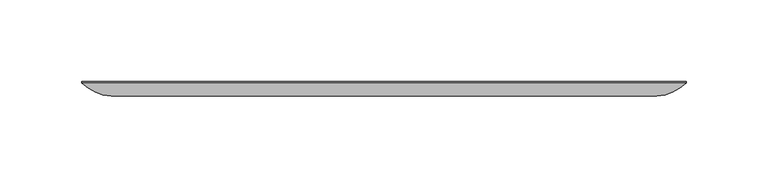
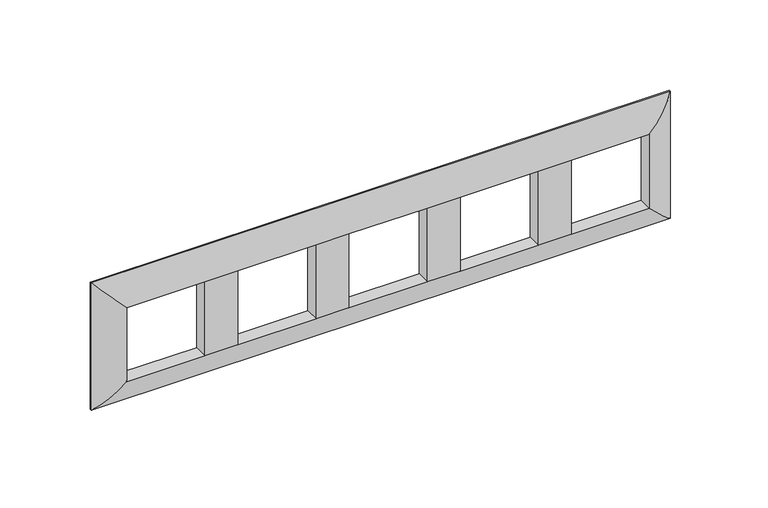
"""IFC4 building model written with IfcOpenShell, lengths in millimetres: proxy geometry, КНС_РамкаНа2x5Модуля(пятиместная)_DKC : 2х5 модулей."""

from ifc_helpers import new_model, si_unit, frame, origin, place, context, project, spatial, ellipse_curve, source, transform, mapped, element, save
from ifc_brep_helpers import plane_surface, cylinder_surface, advanced_brep


def electrical_fixtures_146b7f6f(model_context):
    return source(origin(), model_context, "Body", "AdvancedBrep", [
        advanced_brep(
        [(167.0, -9.0, 24.9768143), (167.0, 0.0, 24.9768143), (167.0, 0.0, -24.9768143), (167.0, -9.0, -24.9768143), (185.0, -0.8, -42.9768143), (185.0, -0.8, 42.9768143), (185.0, 0.0, -42.9768143), (185.0, 0.0, 42.9768143), (117.0, 0.0, -24.9768143), (117.0, -9.0, -24.9768143), (-167.0, 0.0, -24.9768143), (-167.0, -9.0, -24.9768143), (-117.0, -9.0, -24.9768143), (-117.0, 0.0, -24.9768143), (96.0, 0.0, -24.9768143), (46.0, 0.0, -24.9768143), (46.0, -9.0, -24.9768143), (96.0, -9.0, -24.9768143), (25.0, 0.0, -24.9768143), (-25.0, 0.0, -24.9768143), (-25.0, -9.0, -24.9768143), (25.0, -9.0, -24.9768143), (-46.0, 0.0, -24.9768143), (-96.0, 0.0, -24.9768143), (-96.0, -9.0, -24.9768143), (-46.0, -9.0, -24.9768143), (-185.0, -0.8, -42.9768143), (-185.0, 0.0, -42.9768143), (-167.0, 0.0, 24.9768143), (-167.0, -9.0, 24.9768143), (-185.0, -0.8, 42.9768143), (-185.0, 0.0, 42.9768143), (117.0, -9.0, 24.9768143), (117.0, 0.0, 24.9768143), (-117.0, 0.0, 24.9768143), (-117.0, -9.0, 24.9768143), (46.0, 0.0, 24.9768143), (96.0, 0.0, 24.9768143), (96.0, -9.0, 24.9768143), (46.0, -9.0, 24.9768143), (-25.0, 0.0, 24.9768143), (25.0, 0.0, 24.9768143), (25.0, -9.0, 24.9768143), (-25.0, -9.0, 24.9768143), (-96.0, 0.0, 24.9768143), (-46.0, 0.0, 24.9768143), (-46.0, -9.0, 24.9768143), (-96.0, -9.0, 24.9768143)],
        [
            (0, 1),
            (1, 2),
            (2, 3),
            (3, 0),
            (3, 4, ellipse_curve(frame((165.2227605, 18.757355, -23.1995748), z_axis=(0.7071067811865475, 0.0, 0.7071067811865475), x_axis=(-0.7071067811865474, 0.0, 0.7071067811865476)), 39.3352091, 27.8141931)),
            (4, 5),
            (5, 0, ellipse_curve(frame((165.2227605, 18.757355, 23.1995748), z_axis=(0.7071067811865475, 0.0, -0.7071067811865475), x_axis=(0.7071067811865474, 0.0, 0.7071067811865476)), 39.3352091, 27.8141931)),
            (4, 6),
            (6, 7),
            (7, 5),
            (2, 8),
            (8, 9),
            (9, 3),
            (10, 11),
            (11, 12),
            (12, 13),
            (13, 10),
            (14, 15),
            (15, 16),
            (16, 17),
            (17, 14),
            (18, 19),
            (19, 20),
            (20, 21),
            (21, 18),
            (22, 23),
            (23, 24),
            (24, 25),
            (25, 22),
            (9, 17),
            (16, 21),
            (20, 25),
            (24, 12),
            (11, 26, ellipse_curve(frame((-165.2227605, 18.757355, -23.1995748), z_axis=(0.7071067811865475, 0.0, -0.7071067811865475), x_axis=(0.7071067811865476, 0.0, 0.7071067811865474)), 39.3352091, 27.8141931)),
            (26, 4),
            (26, 27),
            (27, 6),
            (10, 28),
            (28, 29),
            (29, 11),
            (29, 30, ellipse_curve(frame((-165.2227605, 18.757355, 23.1995748), z_axis=(-0.7071067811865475, 0.0, -0.7071067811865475), x_axis=(0.7071067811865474, 0.0, -0.7071067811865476)), 39.3352091, 27.8141931)),
            (30, 26),
            (30, 31),
            (31, 27),
            (0, 32),
            (32, 33),
            (33, 1),
            (28, 34),
            (34, 35),
            (35, 29),
            (36, 37),
            (37, 38),
            (38, 39),
            (39, 36),
            (40, 41),
            (41, 42),
            (42, 43),
            (43, 40),
            (44, 45),
            (45, 46),
            (46, 47),
            (47, 44),
            (5, 30),
            (35, 47),
            (46, 43),
            (42, 39),
            (38, 32),
            (7, 31),
            (33, 8),
            (13, 34),
            (36, 15),
            (14, 37),
            (40, 19),
            (18, 41),
            (44, 23),
            (22, 45),
            (42, 21),
            (16, 39),
            (38, 17),
            (9, 32),
            (46, 25),
            (20, 43),
            (35, 12),
            (24, 47),
        ],
        [
            plane_surface(frame((167.0, 0.0, 24.9768143), z_axis=(-1.0, 0.0, 0.0), x_axis=(0.0, 0.0, -1.0))),
            cylinder_surface(frame((165.2227605, 18.757355, 42.9768143), z_axis=(0.0, 0.0, 1.0), x_axis=(1.0, 0.0, 0.0)), 27.8141931),
            plane_surface(frame((185.0, -0.8, 42.9768143), z_axis=(1.0, 0.0, 0.0), x_axis=(0.0, 0.0, -1.0))),
            plane_surface(frame((167.0, 0.0, -24.9768143), z_axis=(0.0, 0.0, 1.0), x_axis=(-1.0, 0.0, 0.0))),
            cylinder_surface(frame((185.0, 18.757355, -23.1995748), z_axis=(1.0, 0.0, 0.0), x_axis=(0.0, 0.0, -1.0)), 27.8141931),
            plane_surface(frame((185.0, -0.8, -42.9768143), z_axis=(0.0, 0.0, -1.0), x_axis=(-1.0, 0.0, 0.0))),
            plane_surface(frame((-167.0, 0.0, -24.9768143), z_axis=(1.0, 0.0, 0.0), x_axis=(0.0, 0.0, 1.0))),
            cylinder_surface(frame((-165.2227605, 18.757355, -42.9768143), z_axis=(0.0, 0.0, -1.0), x_axis=(-1.0, 0.0, 0.0)), 27.8141931),
            plane_surface(frame((-185.0, -0.8, -42.9768143), z_axis=(-1.0, 0.0, 0.0), x_axis=(0.0, 0.0, 1.0))),
            plane_surface(frame((-167.0, 0.0, 24.9768143), z_axis=(0.0, 0.0, -1.0), x_axis=(1.0, 0.0, 0.0))),
            cylinder_surface(frame((-185.0, 18.757355, 23.1995748), z_axis=(-1.0, 0.0, 0.0), x_axis=(0.0, 0.0, 1.0)), 27.8141931),
            plane_surface(frame((-185.0, -0.8, 42.9768143), z_axis=(0.0, 0.0, 1.0), x_axis=(1.0, 0.0, 0.0))),
            plane_surface(frame((-185.0, 0.0, 42.9768143), z_axis=(0.0, 1.0, 0.0), x_axis=(1.0, 0.0, 0.0))),
            plane_surface(frame((25.0, -9.0, 24.9768143), z_axis=(0.0, -1.0, 0.0), x_axis=(-1.0, 0.0, 0.0))),
            plane_surface(frame((25.0, -9.0, 24.9768143), z_axis=(-1.0, 0.0, 0.0), x_axis=(0.0, 1.0, 0.0))),
            plane_surface(frame((46.0, -9.0, -24.9768143), z_axis=(1.0, 0.0, 0.0), x_axis=(0.0, 1.0, 0.0))),
            plane_surface(frame((96.0, -9.0, 24.9768143), z_axis=(-1.0, 0.0, 0.0), x_axis=(0.0, 1.0, 0.0))),
            plane_surface(frame((117.0, -9.0, -24.9768143), z_axis=(1.0, 0.0, 0.0), x_axis=(0.0, 1.0, 0.0))),
            plane_surface(frame((-46.0, -9.0, 24.9768143), z_axis=(-1.0, 0.0, 0.0), x_axis=(0.0, 1.0, 0.0))),
            plane_surface(frame((-25.0, -9.0, -24.9768143), z_axis=(1.0, 0.0, 0.0), x_axis=(0.0, 1.0, 0.0))),
            plane_surface(frame((-117.0, -9.0, 24.9768143), z_axis=(-1.0, 0.0, 0.0), x_axis=(0.0, 1.0, 0.0))),
            plane_surface(frame((-96.0, -9.0, -24.9768143), z_axis=(1.0, 0.0, 0.0), x_axis=(0.0, 1.0, 0.0))),
        ],
        [
            (0, [[1, 2, 3, 4]]),
            (1, [[-4, 5, 6, 7]]),
            (2, [[-6, 8, 9, 10]]),
            (3, [[-3, 11, 12, 13]]),
            (3, [[14, 15, 16, 17]]),
            (3, [[18, 19, 20, 21]]),
            (3, [[22, 23, 24, 25]]),
            (3, [[26, 27, 28, 29]]),
            (4, [[-5, -13, 30, -20, 31, -24, 32, -28, 33, -15, 34, 35]]),
            (5, [[-8, -35, 36, 37]]),
            (6, [[-14, 38, 39, 40]]),
            (7, [[-34, -40, 41, 42]]),
            (8, [[-36, -42, 43, 44]]),
            (9, [[-1, 45, 46, 47]]),
            (9, [[-39, 48, 49, 50]]),
            (9, [[51, 52, 53, 54]]),
            (9, [[55, 56, 57, 58]]),
            (9, [[59, 60, 61, 62]]),
            (10, [[-7, 63, -41, -50, 64, -61, 65, -57, 66, -53, 67, -45]]),
            (11, [[-10, 68, -43, -63]]),
            (12, [[-9, -37, -44, -68], [-2, -47, 69, -11], [-17, 70, -48, -38], [-51, 71, -18, 72], [-55, 73, -22, 74], [-59, 75, -26, 76]]),
            (13, [[77, -31, 78, -66]]),
            (13, [[79, -30, 80, -67]]),
            (13, [[81, -32, 82, -65]]),
            (13, [[83, -33, 84, -64]]),
            (14, [[-77, -56, -74, -25]]),
            (15, [[-78, -19, -71, -54]]),
            (16, [[-79, -52, -72, -21]]),
            (17, [[-80, -12, -69, -46]]),
            (18, [[-81, -60, -76, -29]]),
            (19, [[-82, -23, -73, -58]]),
            (20, [[-83, -49, -70, -16]]),
            (21, [[-84, -27, -75, -62]]),
        ],
    ),
    ])


if __name__ == "__main__":
    model = new_model("IFC4")
    model_context = context("Model", 3, world=origin())
    ifc_project = project(units=[si_unit("LENGTHUNIT", "METRE", prefix="MILLI")], contexts=[model_context])
    site = spatial("IfcSite", under=ifc_project)
    building = spatial("IfcBuilding", under=site)
    placement = place(None, origin())
    electrical_fixtures_shape = electrical_fixtures_146b7f6f(model_context)
    element("IfcBuildingElementProxy", 1, Name="КНС_РамкаНа2x5Модуля(пятиместная)_DKC : 2х5 модулей", ObjectType="КНС_РамкаНа2x5Модуля(пятиместная)_DKC : 2х5 модулей", at=placement, inside=building, context=model_context, shape_type="MappedRepresentation", body=[
        mapped(electrical_fixtures_shape, transform((0.0, 0.0, 0.0), x_axis=(1.0, 0.0, 0.0), y_axis=(0.0, 1.0, 0.0), z_axis=(0.0, 0.0, 1.0))),
    ])
    save(model, "model.ifc")
